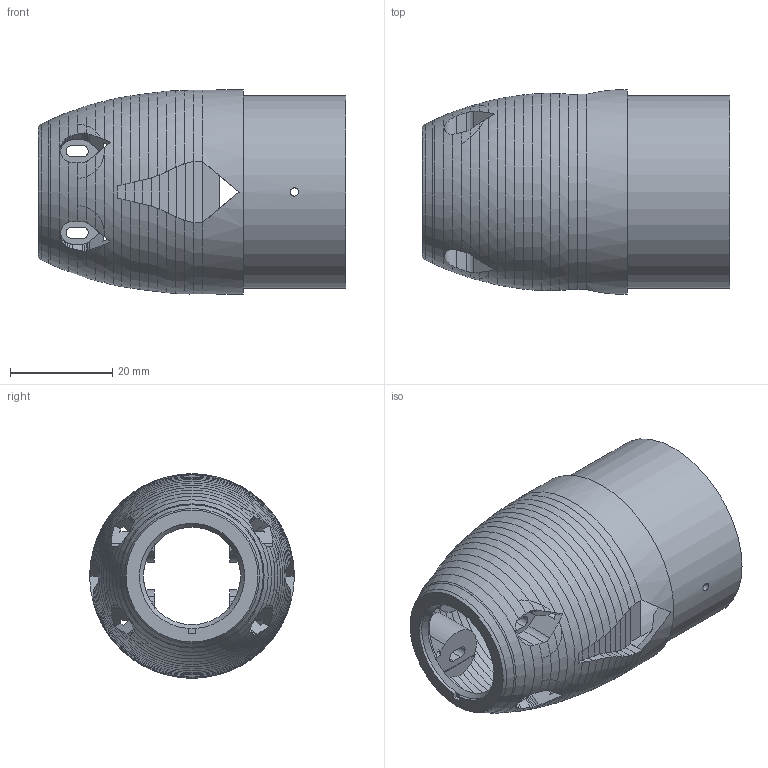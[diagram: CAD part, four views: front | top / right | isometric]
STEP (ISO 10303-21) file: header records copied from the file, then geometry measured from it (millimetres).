
FILE_DESCRIPTION(('SkyG Speed 90B - revision C6B-24 - 2026-10-17','N0O-nose-dji-o4'),'2;1');
FILE_NAME('N0O-nose-dji-o4_C6B-24','2026-10-17T13:26:38',('Author'),( 'Open CASCADE'),'Open CASCADE STEP processor 7.9','Open CASCADE 7.9' ,'Unknown');
FILE_SCHEMA(('AUTOMOTIVE_DESIGN { 1 0 10303 214 1 1 1 1 }'));
Products named in the file (1): N0O-nose-dji-o4 C6B-24
Bounding box: 60.1 x 40 x 40 mm (x, y, z)
Volume: 13310.1 mm3; surface area: 15836.9 mm2
Topology: 1 solids, 1 shells, 524 faces, 1547 edges, 1013 vertices
Faces by surface type: plane 204, cone 143, bspline 122, cylinder 55
Full cylindrical faces by diameter (mm): 1.6 x2, 2 x1, 33.8 x1, 37.7 x1, 40 x1
Entity records: 51664 total; most frequent: CARTESIAN_POINT 24882, DIRECTION 3763, ORIENTED_EDGE 3094, PCURVE 3094, DEFINITIONAL_REPRESENTATION 3094, B_SPLINE_CURVE_WITH_KNOTS 2077, LINE 1821, VECTOR 1821
